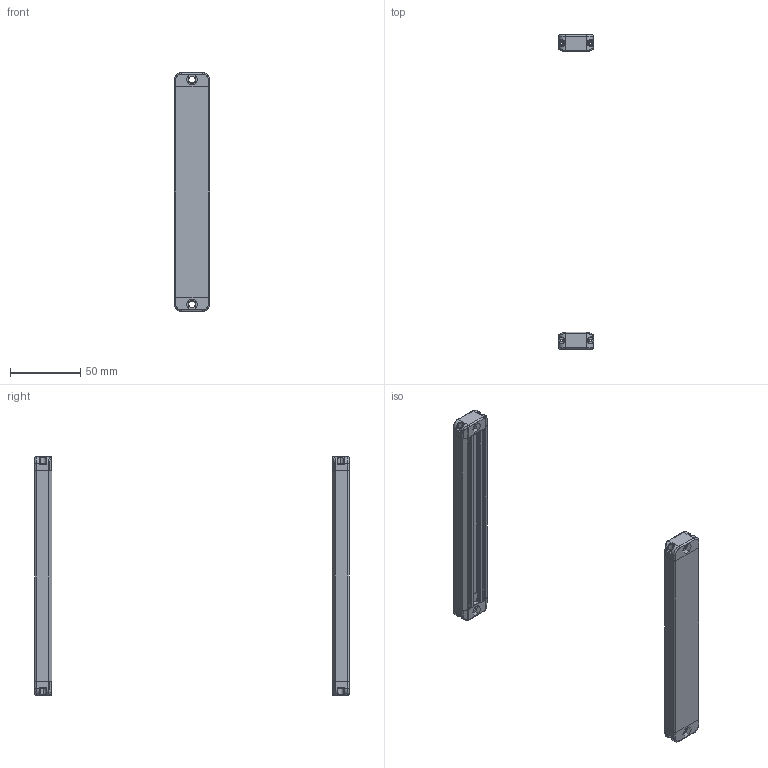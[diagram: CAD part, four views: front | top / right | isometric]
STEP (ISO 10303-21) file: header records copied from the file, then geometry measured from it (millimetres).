
FILE_DESCRIPTION (( 'STEP AP203' ), '1' );
FILE_NAME ('ZDB0820-150.STEP', '2022-08-31T03:07:07', ( 'Windows 蚚誧' ), ( 'Organization' ), 'SwSTEP 2.0', 'SolidWorks 2020', '' );
FILE_SCHEMA (( 'CONFIG_CONTROL_DESIGN' ));
Length unit declared in the file: millimetre
Products named in the file (4): 媼啃3臏倰第; ZDB0820-150; 傷裔衵; 傷裔酘諉彶
Assembly tree (6 placements, depth 2):
  ZDB0820-150
    傷裔衵  x2
    傷裔酘諉彶  x2
    媼啃3臏倰第  x2
Bounding box: 25 x 224 x 170 mm (x, y, z)
Volume: 34135.7 mm3; surface area: 55077.9 mm2
Topology: 6 solids, 6 shells, 650 faces, 1758 edges, 1124 vertices
Faces by surface type: plane 406, cylinder 188, torus 32, bspline 16, sphere 8
Entity records: 11427 total; most frequent: CARTESIAN_POINT 2721, ORIENTED_EDGE 1750, DIRECTION 1687, EDGE_CURVE 875, VECTOR 631, LINE 631, VERTEX_POINT 562, AXIS2_PLACEMENT_3D 528
